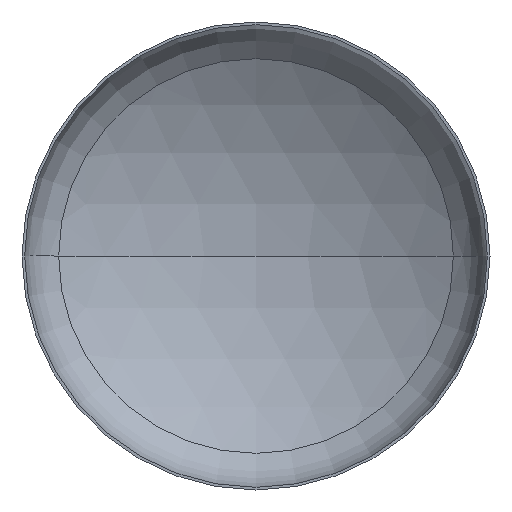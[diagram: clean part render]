
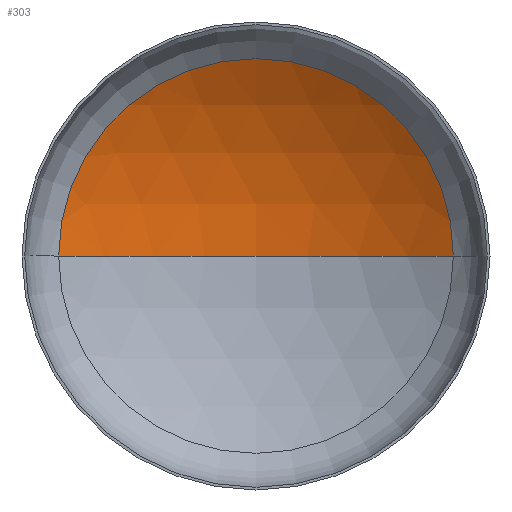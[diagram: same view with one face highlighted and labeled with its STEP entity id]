
A CAD part, front view. The second image highlights one B-rep face of the part: STEP entity #303.
In plain terms, the highlighted spherical face has radius 2240 mm.
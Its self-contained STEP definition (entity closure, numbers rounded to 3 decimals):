
#2 = CARTESIAN_POINT ( 'NONE',  ( -1180.641, 420.423, 0. ) ) ;
#8 = DIRECTION ( 'NONE',  ( 0., 0., 1. ) ) ;
#15 = AXIS2_PLACEMENT_3D ( 'NONE', #397, #112, #159 ) ;
#16 = CARTESIAN_POINT ( 'NONE',  ( 0., -1483.176, 0. ) ) ;
#27 = EDGE_LOOP ( 'NONE', ( #140, #317, #114 ) ) ;
#33 = AXIS2_PLACEMENT_3D ( 'NONE', #16, #8, #342 ) ;
#34 = AXIS2_PLACEMENT_3D ( 'NONE', #179, #183, #320 ) ;
#36 = AXIS2_PLACEMENT_3D ( 'NONE', #204, #206, #195 ) ;
#48 = CARTESIAN_POINT ( 'NONE',  ( 0., 756.824, 0. ) ) ;
#83 = EDGE_CURVE ( 'NONE', #307, #103, #281, .T. ) ;
#95 = EDGE_CURVE ( 'NONE', #202, #307, #230, .T. ) ;
#100 = EDGE_CURVE ( 'NONE', #202, #103, #405, .T. ) ;
#103 = VERTEX_POINT ( 'NONE', #2 ) ;
#112 = DIRECTION ( 'NONE',  ( 0., 0., -1. ) ) ;
#114 = ORIENTED_EDGE ( 'NONE', *, *, #83, .T. ) ;
#130 = CARTESIAN_POINT ( 'NONE',  ( 1180.641, 420.423, 0. ) ) ;
#140 = ORIENTED_EDGE ( 'NONE', *, *, #100, .F. ) ;
#159 = DIRECTION ( 'NONE',  ( -1., 0., 0. ) ) ;
#179 = CARTESIAN_POINT ( 'NONE',  ( 0., -1483.176, 0. ) ) ;
#183 = DIRECTION ( 'NONE',  ( 0., 0., -1. ) ) ;
#187 = SPHERICAL_SURFACE ( 'NONE', #15, 2240. ) ;
#195 = DIRECTION ( 'NONE',  ( 1., 0., 0. ) ) ;
#202 = VERTEX_POINT ( 'NONE', #48 ) ;
#204 = CARTESIAN_POINT ( 'NONE',  ( 0., 420.423, 0. ) ) ;
#206 = DIRECTION ( 'NONE',  ( 0., -1., 0. ) ) ;
#230 = CIRCLE ( 'NONE', #34, 2240. ) ;
#281 = CIRCLE ( 'NONE', #36, 1180.641 ) ;
#303 = ADVANCED_FACE ( 'NONE', ( #311 ), #187, .F. ) ;
#307 = VERTEX_POINT ( 'NONE', #130 ) ;
#311 = FACE_OUTER_BOUND ( 'NONE', #27, .T. ) ;
#317 = ORIENTED_EDGE ( 'NONE', *, *, #95, .T. ) ;
#320 = DIRECTION ( 'NONE',  ( -1., 0., 0. ) ) ;
#342 = DIRECTION ( 'NONE',  ( 1., 0., 0. ) ) ;
#397 = CARTESIAN_POINT ( 'NONE',  ( 0., -1483.176, 0. ) ) ;
#405 = CIRCLE ( 'NONE', #33, 2240. ) ;
